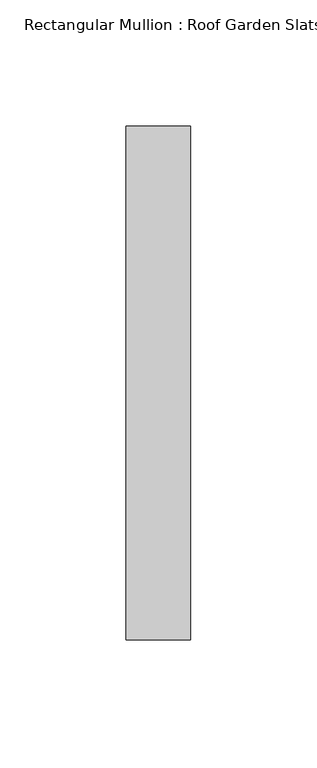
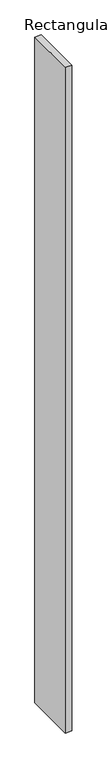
"""IFC4 building model written with IfcOpenShell, lengths in millimetres: member geometry, Rectangular Mullion : Roof Garden Slats."""

from ifc_helpers import new_model, si_unit, frame, origin, place, context, project, spatial, polyline, outline, extrude, source, transform, mapped, element, save


def rectangular_mullion_roof_garden_slats_003b840f(model_context):
    return source(origin(), model_context, "Body", "SweptSolid", [
        extrude(outline(polyline([(0.0, 139.7), (0.0, -63.5), (-25.4, -63.5), (-25.4, 139.7), (0.0, 139.7)])), frame((0.0, 0.0, -2718.629141), z_axis=(0.0, 0.0, 1.0), x_axis=(1.0, 0.0, 0.0)), (0.0, 0.0, 1.0), 2718.629141),
    ])


if __name__ == "__main__":
    model = new_model("IFC4")
    model_context = context("Model", 3, world=origin())
    ifc_project = project(units=[si_unit("LENGTHUNIT", "METRE", prefix="MILLI")], contexts=[model_context])
    site = spatial("IfcSite", under=ifc_project)
    building = spatial("IfcBuilding", under=site)
    placement = place(None, origin())
    rectangular_mullion_roof_garden_slats_shape = rectangular_mullion_roof_garden_slats_003b840f(model_context)
    element("IfcMember", 1, ObjectType="Rectangular Mullion : Roof Garden Slats", at=placement, inside=building, context=model_context, shape_type="MappedRepresentation", body=[
        mapped(rectangular_mullion_roof_garden_slats_shape, transform((0.0, 0.0, 0.0), x_axis=(1.0, 0.0, 0.0), y_axis=(0.0, 1.0, 0.0), z_axis=(0.0, 0.0, 1.0))),
    ])
    save(model, "model.ifc")
